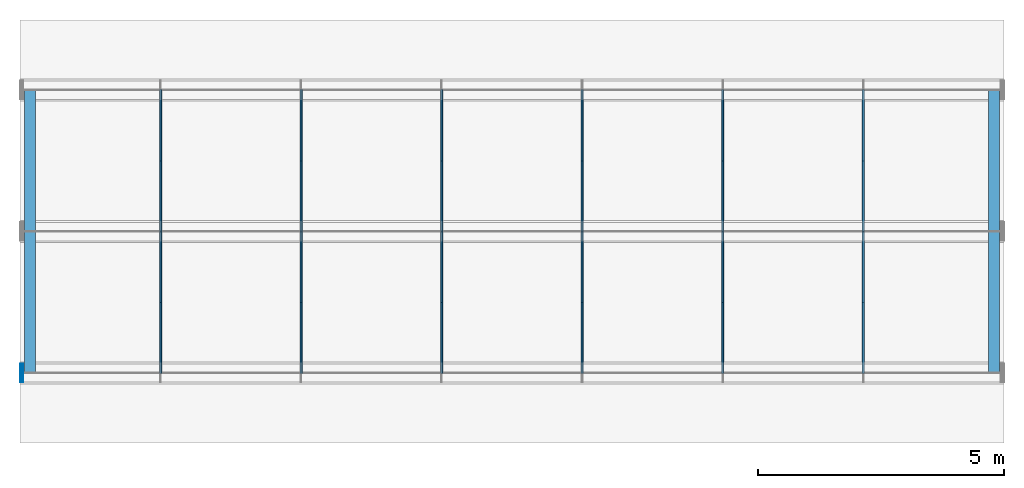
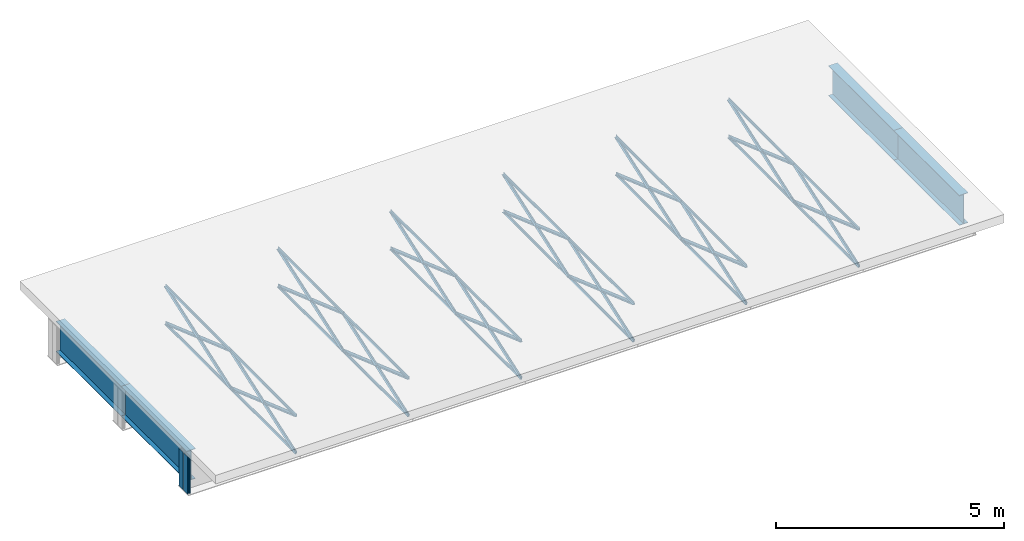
# One storey, part 1 of 8: 52 members, 4 plates.
"""IFC4 building model written with IfcOpenShell, lengths in metres."""

from ifc_helpers import new_model, si_unit, frame, origin, origin_with_axes, origin_2d_with_axis, place, context, subcontext, project, spatial, rectangle, i_section, l_section, extrude, element, save


model = new_model("IFC4")

# Units and contexts
model_context = context("Model", 3, precision=1e-05, world=origin())
body_context = subcontext(model_context, "Body", "Model", "MODEL_VIEW")
ifc_project = project(units=[si_unit("LENGTHUNIT", "METRE"), si_unit("AREAUNIT", "SQUARE_METRE"), si_unit("VOLUMEUNIT", "CUBIC_METRE"), si_unit("PLANEANGLEUNIT", "RADIAN")], contexts=[model_context])

# Site, building, storey
site_placement = place(None, origin_with_axes())
site = spatial("IfcSite", under=ifc_project, at=site_placement, Name="Default Site")
building_placement = place(site_placement, origin_with_axes())
building = spatial("IfcBuilding", under=site, at=building_placement, Name="Bridge Structure")
storey_placement = place(building_placement, origin_with_axes())
storey = spatial("IfcBuildingStorey", under=building, at=storey_placement, Name="Superstructure")

# Members
for number, where, z_axis, x_axis, name in (
    (1, (0.2, -2.875, 0.101), (0.0, 1.0, 0.0), (-1.0, 0.0, 0.0), "End Diaphragm"),
    (2, (0.2, 0.0, 0.101), (0.0, 1.0, 0.0), (-1.0, 0.0, 0.0), "End Diaphragm"),
):
    element("IfcMember", number, at=place(storey_placement, frame(where, z_axis=z_axis, x_axis=x_axis)), inside=storey, Name=name, context=body_context, shape_type="SweptSolid", body=[
        extrude(i_section(OverallWidth=0.225, OverallDepth=0.808, WebThickness=0.012, FlangeThickness=0.012, at=origin_2d_with_axis()), origin_with_axes(), (0.0, 0.0, 1.0), 2.875),
    ])
for number, where, z_axis, x_axis, name in (
    (3, (2.857142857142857, -2.875, 0.505), (0.0, 0.9434740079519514, -0.3314465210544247), (-1.0, 0.0, 0.0), "Diagonal Brace"),
    (4, (2.857142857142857, -2.875, -0.505), (0.0, 0.9434740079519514, 0.3314465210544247), (-1.0, 0.0, 0.0), "Diagonal Brace"),
):
    element("IfcMember", number, at=place(storey_placement, frame(where, z_axis=z_axis, x_axis=x_axis)), inside=storey, Name=name, context=body_context, shape_type="SweptSolid", body=[
        extrude(l_section(Depth=0.075, Width=0.05, Thickness=0.008, at=origin_2d_with_axis()), origin_with_axes(), (0.0, 0.0, 1.0), 3.047248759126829),
    ])
for number, where, z_axis, x_axis, name in (
    (5, (2.857142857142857, -2.875, -0.505), (0.0, 1.0, 0.0), (-1.0, 0.0, 0.0), "Bottom Chord"),
    (6, (2.857142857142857, -2.875, 0.505), (0.0, 1.0, 0.0), (-1.0, 0.0, 0.0), "Top Chord"),
):
    element("IfcMember", number, at=place(storey_placement, frame(where, z_axis=z_axis, x_axis=x_axis)), inside=storey, Name=name, context=body_context, shape_type="SweptSolid", body=[
        extrude(l_section(Depth=0.065, Width=0.04, Thickness=0.008, at=origin_2d_with_axis()), origin_with_axes(), (0.0, 0.0, 1.0), 2.875),
    ])
for number, where, z_axis, x_axis, name in (
    (7, (2.857142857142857, 0.0, 0.505), (0.0, 0.9434740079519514, -0.3314465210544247), (-1.0, 0.0, 0.0), "Diagonal Brace"),
    (8, (2.857142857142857, 0.0, -0.505), (0.0, 0.9434740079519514, 0.3314465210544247), (-1.0, 0.0, 0.0), "Diagonal Brace"),
):
    element("IfcMember", number, at=place(storey_placement, frame(where, z_axis=z_axis, x_axis=x_axis)), inside=storey, Name=name, context=body_context, shape_type="SweptSolid", body=[
        extrude(l_section(Depth=0.075, Width=0.05, Thickness=0.008, at=origin_2d_with_axis()), origin_with_axes(), (0.0, 0.0, 1.0), 3.047248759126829),
    ])
for number, where, z_axis, x_axis, name in (
    (9, (2.857142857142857, 0.0, -0.505), (0.0, 1.0, 0.0), (-1.0, 0.0, 0.0), "Bottom Chord"),
    (10, (2.857142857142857, 0.0, 0.505), (0.0, 1.0, 0.0), (-1.0, 0.0, 0.0), "Top Chord"),
):
    element("IfcMember", number, at=place(storey_placement, frame(where, z_axis=z_axis, x_axis=x_axis)), inside=storey, Name=name, context=body_context, shape_type="SweptSolid", body=[
        extrude(l_section(Depth=0.065, Width=0.04, Thickness=0.008, at=origin_2d_with_axis()), origin_with_axes(), (0.0, 0.0, 1.0), 2.875),
    ])
for number, where, z_axis, x_axis, name in (
    (11, (5.714285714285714, -2.875, 0.505), (0.0, 0.9434740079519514, -0.3314465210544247), (-1.0, 0.0, 0.0), "Diagonal Brace"),
    (12, (5.714285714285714, -2.875, -0.505), (0.0, 0.9434740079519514, 0.3314465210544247), (-1.0, 0.0, 0.0), "Diagonal Brace"),
):
    element("IfcMember", number, at=place(storey_placement, frame(where, z_axis=z_axis, x_axis=x_axis)), inside=storey, Name=name, context=body_context, shape_type="SweptSolid", body=[
        extrude(l_section(Depth=0.075, Width=0.05, Thickness=0.008, at=origin_2d_with_axis()), origin_with_axes(), (0.0, 0.0, 1.0), 3.047248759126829),
    ])
for number, where, z_axis, x_axis, name in (
    (13, (5.714285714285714, -2.875, -0.505), (0.0, 1.0, 0.0), (-1.0, 0.0, 0.0), "Bottom Chord"),
    (14, (5.714285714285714, -2.875, 0.505), (0.0, 1.0, 0.0), (-1.0, 0.0, 0.0), "Top Chord"),
):
    element("IfcMember", number, at=place(storey_placement, frame(where, z_axis=z_axis, x_axis=x_axis)), inside=storey, Name=name, context=body_context, shape_type="SweptSolid", body=[
        extrude(l_section(Depth=0.065, Width=0.04, Thickness=0.008, at=origin_2d_with_axis()), origin_with_axes(), (0.0, 0.0, 1.0), 2.875),
    ])
for number, where, z_axis, x_axis, name in (
    (15, (5.714285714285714, 0.0, 0.505), (0.0, 0.9434740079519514, -0.3314465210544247), (-1.0, 0.0, 0.0), "Diagonal Brace"),
    (16, (5.714285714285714, 0.0, -0.505), (0.0, 0.9434740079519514, 0.3314465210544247), (-1.0, 0.0, 0.0), "Diagonal Brace"),
):
    element("IfcMember", number, at=place(storey_placement, frame(where, z_axis=z_axis, x_axis=x_axis)), inside=storey, Name=name, context=body_context, shape_type="SweptSolid", body=[
        extrude(l_section(Depth=0.075, Width=0.05, Thickness=0.008, at=origin_2d_with_axis()), origin_with_axes(), (0.0, 0.0, 1.0), 3.047248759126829),
    ])
for number, where, z_axis, x_axis, name in (
    (17, (5.714285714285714, 0.0, -0.505), (0.0, 1.0, 0.0), (-1.0, 0.0, 0.0), "Bottom Chord"),
    (18, (5.714285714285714, 0.0, 0.505), (0.0, 1.0, 0.0), (-1.0, 0.0, 0.0), "Top Chord"),
):
    element("IfcMember", number, at=place(storey_placement, frame(where, z_axis=z_axis, x_axis=x_axis)), inside=storey, Name=name, context=body_context, shape_type="SweptSolid", body=[
        extrude(l_section(Depth=0.065, Width=0.04, Thickness=0.008, at=origin_2d_with_axis()), origin_with_axes(), (0.0, 0.0, 1.0), 2.875),
    ])
for number, where, z_axis, x_axis, name in (
    (19, (8.571428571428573, -2.875, 0.505), (0.0, 0.9434740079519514, -0.3314465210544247), (-1.0, 0.0, 0.0), "Diagonal Brace"),
    (20, (8.571428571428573, -2.875, -0.505), (0.0, 0.9434740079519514, 0.3314465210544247), (-1.0, 0.0, 0.0), "Diagonal Brace"),
):
    element("IfcMember", number, at=place(storey_placement, frame(where, z_axis=z_axis, x_axis=x_axis)), inside=storey, Name=name, context=body_context, shape_type="SweptSolid", body=[
        extrude(l_section(Depth=0.075, Width=0.05, Thickness=0.008, at=origin_2d_with_axis()), origin_with_axes(), (0.0, 0.0, 1.0), 3.047248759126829),
    ])
for number, where, z_axis, x_axis, name in (
    (21, (8.571428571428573, -2.875, -0.505), (0.0, 1.0, 0.0), (-1.0, 0.0, 0.0), "Bottom Chord"),
    (22, (8.571428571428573, -2.875, 0.505), (0.0, 1.0, 0.0), (-1.0, 0.0, 0.0), "Top Chord"),
):
    element("IfcMember", number, at=place(storey_placement, frame(where, z_axis=z_axis, x_axis=x_axis)), inside=storey, Name=name, context=body_context, shape_type="SweptSolid", body=[
        extrude(l_section(Depth=0.065, Width=0.04, Thickness=0.008, at=origin_2d_with_axis()), origin_with_axes(), (0.0, 0.0, 1.0), 2.875),
    ])
for number, where, z_axis, x_axis, name in (
    (23, (8.571428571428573, 0.0, 0.505), (0.0, 0.9434740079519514, -0.3314465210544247), (-1.0, 0.0, 0.0), "Diagonal Brace"),
    (24, (8.571428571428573, 0.0, -0.505), (0.0, 0.9434740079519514, 0.3314465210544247), (-1.0, 0.0, 0.0), "Diagonal Brace"),
):
    element("IfcMember", number, at=place(storey_placement, frame(where, z_axis=z_axis, x_axis=x_axis)), inside=storey, Name=name, context=body_context, shape_type="SweptSolid", body=[
        extrude(l_section(Depth=0.075, Width=0.05, Thickness=0.008, at=origin_2d_with_axis()), origin_with_axes(), (0.0, 0.0, 1.0), 3.047248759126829),
    ])
for number, where, z_axis, x_axis, name in (
    (25, (8.571428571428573, 0.0, -0.505), (0.0, 1.0, 0.0), (-1.0, 0.0, 0.0), "Bottom Chord"),
    (26, (8.571428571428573, 0.0, 0.505), (0.0, 1.0, 0.0), (-1.0, 0.0, 0.0), "Top Chord"),
):
    element("IfcMember", number, at=place(storey_placement, frame(where, z_axis=z_axis, x_axis=x_axis)), inside=storey, Name=name, context=body_context, shape_type="SweptSolid", body=[
        extrude(l_section(Depth=0.065, Width=0.04, Thickness=0.008, at=origin_2d_with_axis()), origin_with_axes(), (0.0, 0.0, 1.0), 2.875),
    ])
for number, where, z_axis, x_axis, name in (
    (27, (11.428571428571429, -2.875, 0.505), (0.0, 0.9434740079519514, -0.3314465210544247), (-1.0, 0.0, 0.0), "Diagonal Brace"),
    (28, (11.428571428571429, -2.875, -0.505), (0.0, 0.9434740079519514, 0.3314465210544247), (-1.0, 0.0, 0.0), "Diagonal Brace"),
):
    element("IfcMember", number, at=place(storey_placement, frame(where, z_axis=z_axis, x_axis=x_axis)), inside=storey, Name=name, context=body_context, shape_type="SweptSolid", body=[
        extrude(l_section(Depth=0.075, Width=0.05, Thickness=0.008, at=origin_2d_with_axis()), origin_with_axes(), (0.0, 0.0, 1.0), 3.047248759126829),
    ])
for number, where, z_axis, x_axis, name in (
    (29, (11.428571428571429, -2.875, -0.505), (0.0, 1.0, 0.0), (-1.0, 0.0, 0.0), "Bottom Chord"),
    (30, (11.428571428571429, -2.875, 0.505), (0.0, 1.0, 0.0), (-1.0, 0.0, 0.0), "Top Chord"),
):
    element("IfcMember", number, at=place(storey_placement, frame(where, z_axis=z_axis, x_axis=x_axis)), inside=storey, Name=name, context=body_context, shape_type="SweptSolid", body=[
        extrude(l_section(Depth=0.065, Width=0.04, Thickness=0.008, at=origin_2d_with_axis()), origin_with_axes(), (0.0, 0.0, 1.0), 2.875),
    ])
for number, where, z_axis, x_axis, name in (
    (31, (11.428571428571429, 0.0, 0.505), (0.0, 0.9434740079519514, -0.3314465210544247), (-1.0, 0.0, 0.0), "Diagonal Brace"),
    (32, (11.428571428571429, 0.0, -0.505), (0.0, 0.9434740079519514, 0.3314465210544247), (-1.0, 0.0, 0.0), "Diagonal Brace"),
):
    element("IfcMember", number, at=place(storey_placement, frame(where, z_axis=z_axis, x_axis=x_axis)), inside=storey, Name=name, context=body_context, shape_type="SweptSolid", body=[
        extrude(l_section(Depth=0.075, Width=0.05, Thickness=0.008, at=origin_2d_with_axis()), origin_with_axes(), (0.0, 0.0, 1.0), 3.047248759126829),
    ])
for number, where, z_axis, x_axis, name in (
    (33, (11.428571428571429, 0.0, -0.505), (0.0, 1.0, 0.0), (-1.0, 0.0, 0.0), "Bottom Chord"),
    (34, (11.428571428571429, 0.0, 0.505), (0.0, 1.0, 0.0), (-1.0, 0.0, 0.0), "Top Chord"),
):
    element("IfcMember", number, at=place(storey_placement, frame(where, z_axis=z_axis, x_axis=x_axis)), inside=storey, Name=name, context=body_context, shape_type="SweptSolid", body=[
        extrude(l_section(Depth=0.065, Width=0.04, Thickness=0.008, at=origin_2d_with_axis()), origin_with_axes(), (0.0, 0.0, 1.0), 2.875),
    ])
for number, where, z_axis, x_axis, name in (
    (35, (14.285714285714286, -2.875, 0.505), (0.0, 0.9434740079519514, -0.3314465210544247), (-1.0, 0.0, 0.0), "Diagonal Brace"),
    (36, (14.285714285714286, -2.875, -0.505), (0.0, 0.9434740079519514, 0.3314465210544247), (-1.0, 0.0, 0.0), "Diagonal Brace"),
):
    element("IfcMember", number, at=place(storey_placement, frame(where, z_axis=z_axis, x_axis=x_axis)), inside=storey, Name=name, context=body_context, shape_type="SweptSolid", body=[
        extrude(l_section(Depth=0.075, Width=0.05, Thickness=0.008, at=origin_2d_with_axis()), origin_with_axes(), (0.0, 0.0, 1.0), 3.047248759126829),
    ])
for number, where, z_axis, x_axis, name in (
    (37, (14.285714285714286, -2.875, -0.505), (0.0, 1.0, 0.0), (-1.0, 0.0, 0.0), "Bottom Chord"),
    (38, (14.285714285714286, -2.875, 0.505), (0.0, 1.0, 0.0), (-1.0, 0.0, 0.0), "Top Chord"),
):
    element("IfcMember", number, at=place(storey_placement, frame(where, z_axis=z_axis, x_axis=x_axis)), inside=storey, Name=name, context=body_context, shape_type="SweptSolid", body=[
        extrude(l_section(Depth=0.065, Width=0.04, Thickness=0.008, at=origin_2d_with_axis()), origin_with_axes(), (0.0, 0.0, 1.0), 2.875),
    ])
for number, where, z_axis, x_axis, name in (
    (39, (14.285714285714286, 0.0, 0.505), (0.0, 0.9434740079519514, -0.3314465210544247), (-1.0, 0.0, 0.0), "Diagonal Brace"),
    (40, (14.285714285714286, 0.0, -0.505), (0.0, 0.9434740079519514, 0.3314465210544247), (-1.0, 0.0, 0.0), "Diagonal Brace"),
):
    element("IfcMember", number, at=place(storey_placement, frame(where, z_axis=z_axis, x_axis=x_axis)), inside=storey, Name=name, context=body_context, shape_type="SweptSolid", body=[
        extrude(l_section(Depth=0.075, Width=0.05, Thickness=0.008, at=origin_2d_with_axis()), origin_with_axes(), (0.0, 0.0, 1.0), 3.047248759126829),
    ])
for number, where, z_axis, x_axis, name in (
    (41, (14.285714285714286, 0.0, -0.505), (0.0, 1.0, 0.0), (-1.0, 0.0, 0.0), "Bottom Chord"),
    (42, (14.285714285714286, 0.0, 0.505), (0.0, 1.0, 0.0), (-1.0, 0.0, 0.0), "Top Chord"),
):
    element("IfcMember", number, at=place(storey_placement, frame(where, z_axis=z_axis, x_axis=x_axis)), inside=storey, Name=name, context=body_context, shape_type="SweptSolid", body=[
        extrude(l_section(Depth=0.065, Width=0.04, Thickness=0.008, at=origin_2d_with_axis()), origin_with_axes(), (0.0, 0.0, 1.0), 2.875),
    ])
for number, where, z_axis, x_axis, name in (
    (43, (17.142857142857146, -2.875, 0.505), (0.0, 0.9434740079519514, -0.3314465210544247), (-1.0, 0.0, 0.0), "Diagonal Brace"),
    (44, (17.142857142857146, -2.875, -0.505), (0.0, 0.9434740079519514, 0.3314465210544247), (-1.0, 0.0, 0.0), "Diagonal Brace"),
):
    element("IfcMember", number, at=place(storey_placement, frame(where, z_axis=z_axis, x_axis=x_axis)), inside=storey, Name=name, context=body_context, shape_type="SweptSolid", body=[
        extrude(l_section(Depth=0.075, Width=0.05, Thickness=0.008, at=origin_2d_with_axis()), origin_with_axes(), (0.0, 0.0, 1.0), 3.047248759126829),
    ])
for number, where, z_axis, x_axis, name in (
    (45, (17.142857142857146, -2.875, -0.505), (0.0, 1.0, 0.0), (-1.0, 0.0, 0.0), "Bottom Chord"),
    (46, (17.142857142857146, -2.875, 0.505), (0.0, 1.0, 0.0), (-1.0, 0.0, 0.0), "Top Chord"),
):
    element("IfcMember", number, at=place(storey_placement, frame(where, z_axis=z_axis, x_axis=x_axis)), inside=storey, Name=name, context=body_context, shape_type="SweptSolid", body=[
        extrude(l_section(Depth=0.065, Width=0.04, Thickness=0.008, at=origin_2d_with_axis()), origin_with_axes(), (0.0, 0.0, 1.0), 2.875),
    ])
for number, where, z_axis, x_axis, name in (
    (47, (17.142857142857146, 0.0, 0.505), (0.0, 0.9434740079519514, -0.3314465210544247), (-1.0, 0.0, 0.0), "Diagonal Brace"),
    (48, (17.142857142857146, 0.0, -0.505), (0.0, 0.9434740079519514, 0.3314465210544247), (-1.0, 0.0, 0.0), "Diagonal Brace"),
):
    element("IfcMember", number, at=place(storey_placement, frame(where, z_axis=z_axis, x_axis=x_axis)), inside=storey, Name=name, context=body_context, shape_type="SweptSolid", body=[
        extrude(l_section(Depth=0.075, Width=0.05, Thickness=0.008, at=origin_2d_with_axis()), origin_with_axes(), (0.0, 0.0, 1.0), 3.047248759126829),
    ])
for number, where, z_axis, x_axis, name in (
    (49, (17.142857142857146, 0.0, -0.505), (0.0, 1.0, 0.0), (-1.0, 0.0, 0.0), "Bottom Chord"),
    (50, (17.142857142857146, 0.0, 0.505), (0.0, 1.0, 0.0), (-1.0, 0.0, 0.0), "Top Chord"),
):
    element("IfcMember", number, at=place(storey_placement, frame(where, z_axis=z_axis, x_axis=x_axis)), inside=storey, Name=name, context=body_context, shape_type="SweptSolid", body=[
        extrude(l_section(Depth=0.065, Width=0.04, Thickness=0.008, at=origin_2d_with_axis()), origin_with_axes(), (0.0, 0.0, 1.0), 2.875),
    ])
for number, where, z_axis, x_axis, name in (
    (51, (19.8, -2.875, 0.101), (0.0, 1.0, 0.0), (-1.0, 0.0, 0.0), "End Diaphragm"),
    (52, (19.8, 0.0, 0.101), (0.0, 1.0, 0.0), (-1.0, 0.0, 0.0), "End Diaphragm"),
):
    element("IfcMember", number, at=place(storey_placement, frame(where, z_axis=z_axis, x_axis=x_axis)), inside=storey, Name=name, context=body_context, shape_type="SweptSolid", body=[
        extrude(i_section(OverallWidth=0.225, OverallDepth=0.808, WebThickness=0.012, FlangeThickness=0.012, at=origin_2d_with_axis()), origin_with_axes(), (0.0, 0.0, 1.0), 2.875),
    ])

# Plates
for number, where, z_axis, x_axis, name in (
    (53, (0.01, -2.77825, -0.505), (0.0, 0.0, 1.0), (1.0, 0.0, 0.0), "End Stiffener 1"),
    (54, (0.01, -2.97175, -0.505), (0.0, 0.0, 1.0), (1.0, 0.0, 0.0), "End Stiffener 1"),
    (55, (0.06, -2.77825, -0.505), (0.0, 0.0, 1.0), (1.0, 0.0, 0.0), "End Stiffener 1"),
    (56, (0.06, -2.97175, -0.505), (0.0, 0.0, 1.0), (1.0, 0.0, 0.0), "End Stiffener 1"),
):
    element("IfcPlate", number, at=place(storey_placement, frame(where, z_axis=z_axis, x_axis=x_axis)), inside=storey, Name=name, context=body_context, shape_type="SweptSolid", body=[
        extrude(rectangle(XDim=0.02, YDim=0.1815, at=origin_2d_with_axis()), origin_with_axes(), (0.0, 0.0, 1.0), 1.01),
    ])

save(model, "model.ifc")
